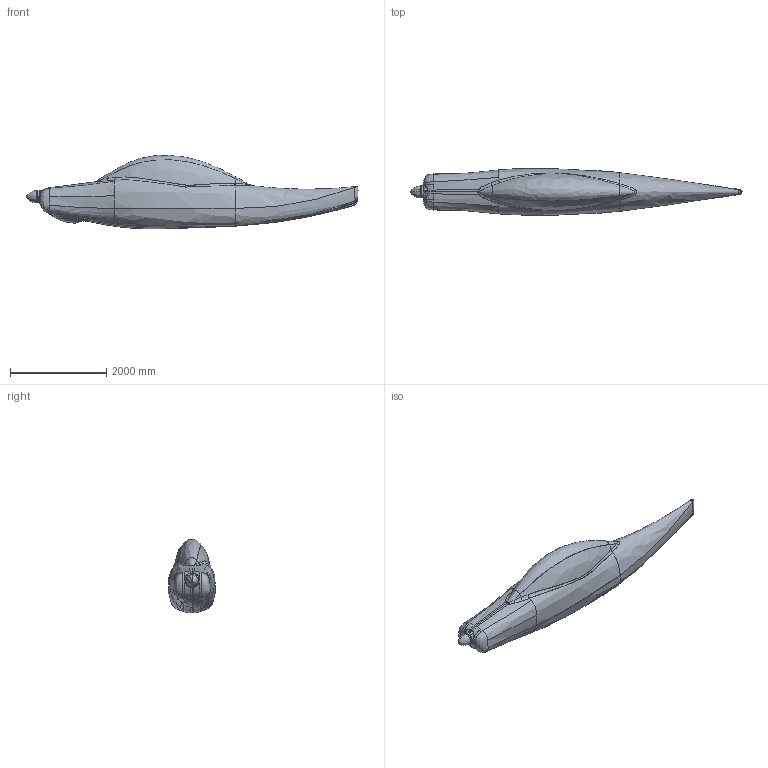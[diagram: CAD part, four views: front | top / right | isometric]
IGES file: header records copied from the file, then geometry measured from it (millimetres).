
Start section: START RECORD GO HERE.
Global section: file name: FUSELAGE.igs; native system: DASSAULT SYSTEMES CATIA V5 R20 - www.3ds.com; preprocessor: CATIA Version 5 Release 20 ; author: omo; organization: ACE; date: 20220614.121542; units: millimetre
Bounding box: 6895.98 x 973.99 x 1523.07 mm (x, y, z)
Surface area: 18335260.4 mm2 (no closed solid volume)
Topology: 0 solids, 0 shells, 131 faces, 630 edges, 624 vertices
Faces by surface type: bspline 112, revolution 19
